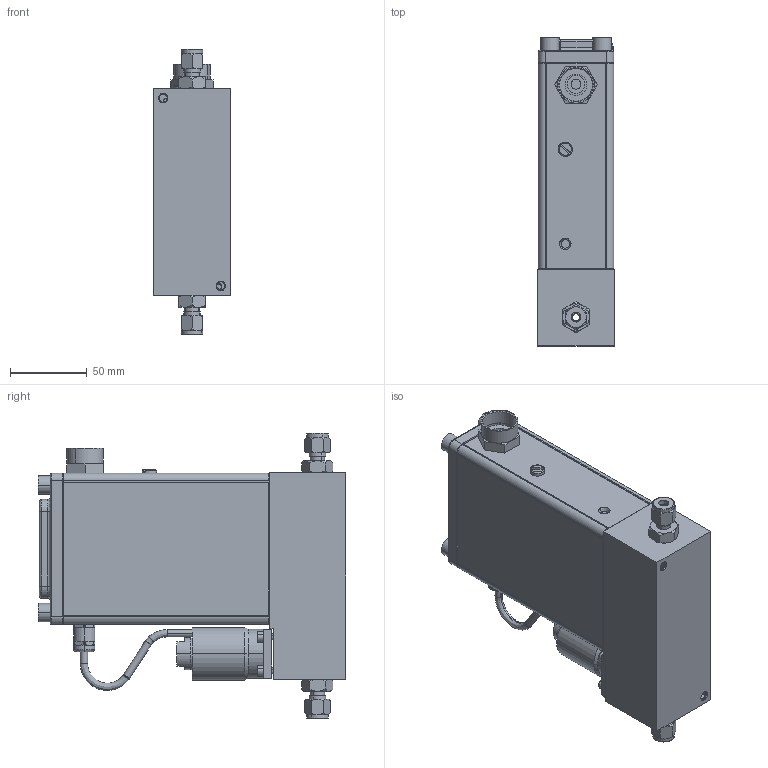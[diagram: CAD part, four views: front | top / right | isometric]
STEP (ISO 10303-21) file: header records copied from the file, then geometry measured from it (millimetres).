
FILE_DESCRIPTION (( 'STEP AP203' ), '1' );
FILE_NAME ('SLAMF50-S-1B-1-K-REVB.STEP', '2021-06-21T19:42:05', ( '' ), ( '' ), 'SwSTEP 2.0', 'SolidWorks 2020', '' );
FILE_SCHEMA (( 'CONFIG_CONTROL_DESIGN' ));
Length unit declared in the file: inch
Products named in the file (1): SLAMF50-S-1B-1-K-REVB
Bounding box: 49.5 x 199.98 x 185.31 mm (x, y, z)
Volume: 439640 mm3; surface area: 202748.1 mm2
Topology: 35 solids, 35 shells, 931 faces, 2166 edges, 1359 vertices
Faces by surface type: cylinder 356, plane 346, cone 154, bspline 75
Entity records: 29381 total; most frequent: CARTESIAN_POINT 7741, DIRECTION 4654, ORIENTED_EDGE 4320, EDGE_CURVE 2160, AXIS2_PLACEMENT_3D 1822, VERTEX_POINT 1359, EDGE_LOOP 1115, LINE 1010
